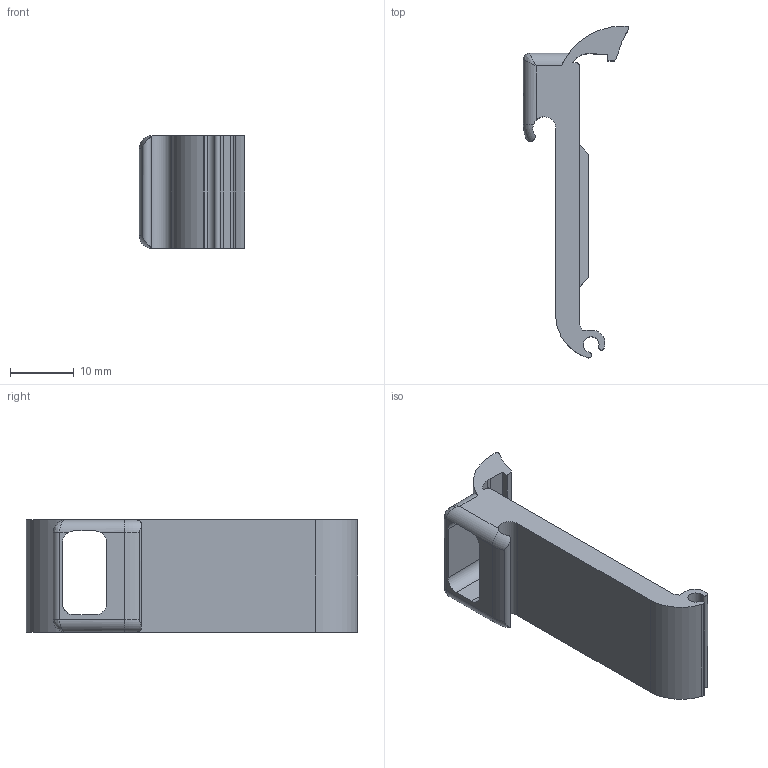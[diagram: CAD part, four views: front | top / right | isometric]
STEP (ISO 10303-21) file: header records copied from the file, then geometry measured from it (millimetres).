
FILE_DESCRIPTION(('HOOPS Exchange Step'),'2;1');
FILE_NAME('/var/folders/pf/pfdps4cn3cz5182277tv90qh0000gn/T/com.shapr3d.shapr/export/temp_export','2022-07-27T21:57:54+19:00',('ssstraub'),('Shapr3D Limited'),'HOOPS Exchange 2022.1','Shapr3D','Authorized');
FILE_SCHEMA( ('AP203_CONFIGURATION_CONTROLLED_3D_DESIGN_OF_MECHANICAL_PARTS_AND_ASSEMBLIES_MIM_LF') );
Length unit declared in the file: millimetre
Products named in the file (1): root
Bounding box: 16.56 x 52.15 x 17.7 mm (x, y, z)
Volume: 4061.2 mm3; surface area: 3297.6 mm2
Topology: 1 solids, 1 shells, 63 faces, 175 edges, 112 vertices
Faces by surface type: cylinder 32, plane 27, bspline 2, torus 2
Entity records: 2473 total; most frequent: CARTESIAN_POINT 827, ORIENTED_EDGE 348, DIRECTION 337, EDGE_CURVE 174, AXIS2_PLACEMENT_3D 118, VERTEX_POINT 112, VECTOR 101, LINE 101
